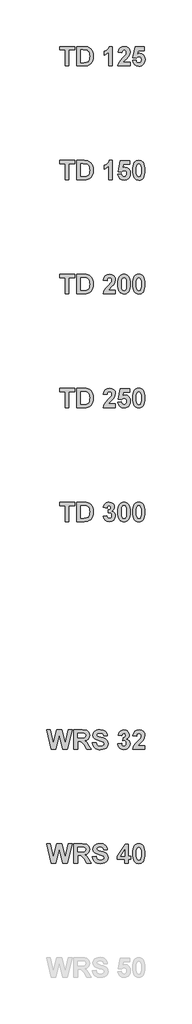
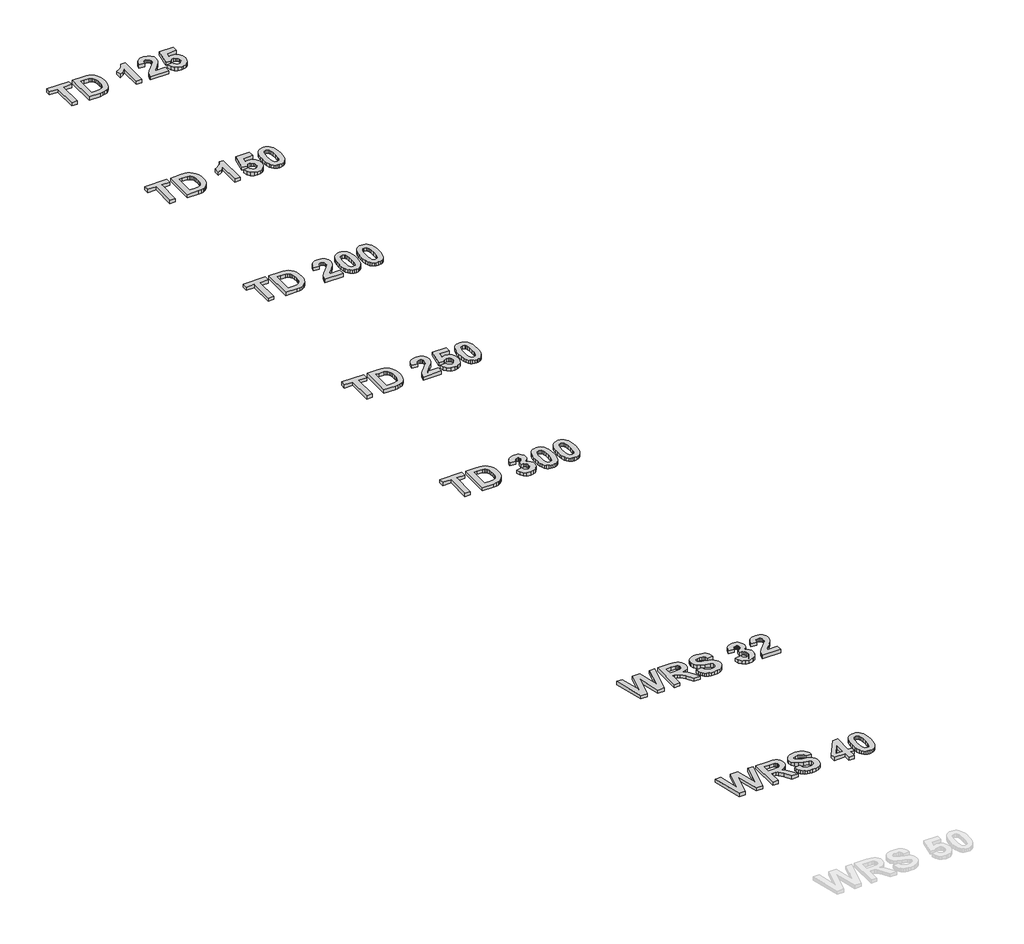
# One storey, part 6 of 9: 7 proxies.
"""IFC4 building model written with IfcOpenShell, lengths in millimetres."""

from ifc_helpers import new_model, si_unit, origin, origin_with_axes, place, context, project, spatial, polyline, outline, extrude, element, save

model = new_model("IFC4")

# Units and contexts
model_context = context("Model", 3, world=origin())
ifc_project = project(units=[si_unit("LENGTHUNIT", "METRE", prefix="MILLI")], contexts=[model_context])

# Site, building, storey
site = spatial("IfcSite", under=ifc_project)
building = spatial("IfcBuilding", under=site)
storey = spatial("IfcBuildingStorey", under=building, Name="Этаж 01", Elevation=0.0)

# Proxies
placement = place(None, origin())
element("IfcBuildingElementProxy", 1, Name="Wellmix_Надпись1", ObjectType="Wellmix_Надпись1", at=placement, inside=storey, context=model_context, shape_type="SweptSolid", body=[
    extrude(outline(polyline([(23803.8219791, -25606.2429048), (23803.8219791, -25395.7131873), (23730.9463076, -25395.7131873), (23730.9463076, -25351.1780548), (23925.2814314, -25351.1780548), (23925.2814314, -25395.7131873), (23852.40576, -25395.7131873), (23852.40576, -25606.2429048), (23803.8219791, -25606.2429048)])), origin_with_axes(), (0.0, 0.0, 1.0), 30.0),
    extrude(outline(polyline([(23957.6706187, -25351.1780548), (24052.117995, -25351.1780548), (24080.2687535, -25352.3958123), (24100.8282962, -25356.0490849), (24121.7357696, -25365.2455265), (24139.4169764, -25379.5502237), (24153.5635233, -25398.3068527), (24163.8670172, -25420.8590896), (24170.1534927, -25448.1637438), (24172.2489846, -25481.1776249), (24170.2879205, -25510.4670658), (24164.4047283, -25535.4548177), (24152.7332341, -25560.63235), (24136.9498313, -25580.4960313), (24121.1664285, -25592.1042654), (24100.6385158, -25600.8657936), (24080.6641293, -25604.898627), (24054.9014408, -25606.2429048), (23957.6706187, -25606.2429048), (23957.6706187, -25351.1780548)]), holes=[polyline([(24006.2543997, -25395.7131873), (24006.2543997, -25561.7077722), (24047.6265257, -25561.7077722), (24081.1543953, -25559.3038872), (24103.5168518, -25548.8975956), (24111.5904261, -25539.1634429), (24118.035052, -25524.7005953), (24122.2576657, -25504.805284), (24123.6652037, -25478.7737399), (24122.2576657, -25453.1059416), (24118.035052, -25434.1753472), (24111.2899404, -25420.3213784), (24102.3149093, -25409.8834568), (24090.856918, -25402.5769116), (24076.662926, -25398.1170723), (24031.1788915, -25395.7131873), (24006.2543997, -25395.7131873)])]), origin_with_axes(), (0.0, 0.0, 1.0), 30.0),
    extrude(outline(polyline([(24423.2651862, -25606.2429048), (24374.6814052, -25606.2429048), (24374.6814052, -25423.9272059), (24346.6255369, -25447.8079056), (24313.951679, -25464.5402103), (24313.951679, -25415.9564294), (24333.4199845, -25406.870693), (24354.5014233, -25392.1389899), (24372.9575666, -25373.1214129), (24384.5499857, -25351.1780548), (24423.2651862, -25351.1780548), (24423.2651862, -25606.2429048)])), origin_with_axes(), (0.0, 0.0, 1.0), 30.0),
    extrude(outline(polyline([(24658.0867941, -25557.6591238), (24658.0867941, -25606.2429048), (24496.1408576, -25606.2429048), (24501.3123734, -25581.7375113), (24511.6395898, -25558.5763957), (24530.8232247, -25532.3946088), (24562.5639956, -25498.8272016), (24600.1405137, -25458.0876769), (24607.1623883, -25443.3796964), (24609.5030132, -25428.8614962), (24607.5340416, -25414.7149493), (24601.6271268, -25404.2849351), (24592.2567198, -25397.8561243), (24579.8972716, -25395.7131873), (24567.6248061, -25397.8244942), (24558.1357864, -25404.1584149), (24551.7465131, -25415.3791807), (24548.773287, -25432.151023), (24500.189506, -25427.7228138), (24508.7928839, -25392.5739033), (24516.4157297, -25379.3347439), (24526.2526802, -25368.9857818), (24550.8766863, -25355.6299865), (24580.9726939, -25351.1780548), (24613.1088406, -25356.1676976), (24637.5272514, -25371.1366262), (24652.9469084, -25393.5228053), (24658.0867941, -25420.7641994), (24652.4566424, -25452.9003461), (24634.6172853, -25484.8467125), (24604.4105726, -25516.7298188), (24576.6710049, -25544.3744962), (24567.561546, -25557.6591238), (24658.0867941, -25557.6591238)])), origin_with_axes(), (0.0, 0.0, 1.0), 30.0),
    extrude(outline(polyline([(24690.4759814, -25534.4426556), (24735.0111139, -25529.3185849), (24739.1546526, -25544.3903112), (24747.4100997, -25555.9511003), (24758.5122528, -25563.3050905), (24771.1959091, -25565.7564206), (24785.3899011, -25563.1548477), (24797.2274532, -25555.350129), (24805.2219523, -25542.3106344), (24807.8867854, -25524.0047339), (24805.4117327, -25506.8454232), (24797.9865748, -25494.5887728), (24786.5918436, -25487.2347825), (24772.2080712, -25484.7834524), (24753.3881821, -25489.8442629), (24736.6558774, -25505.0266945), (24694.5246298, -25498.7639414), (24722.8651687, -25355.2267032), (24844.3246211, -25355.2267032), (24844.3246211, -25403.8104841), (24762.1497103, -25403.8104841), (24752.34439, -25450.1801605), (24767.8273071, -25442.73128), (24783.658155, -25440.2483199), (24811.7772835, -25445.9970843), (24835.2784223, -25463.2433776), (24851.1725303, -25489.66239), (24856.4705663, -25522.9293117), (24852.0581722, -25551.8550068), (24838.8209896, -25577.5228051), (24825.6035759, -25591.8591324), (24810.0534449, -25602.0993662), (24792.1705965, -25608.2435064), (24771.9550307, -25610.2915532), (24740.9496588, -25605.1516675), (24716.254485, -25589.7320105), (24699.0398217, -25565.6299004), (24690.4759814, -25534.4426556)])), origin_with_axes(), (0.0, 0.0, 1.0), 30.0),
])
element("IfcBuildingElementProxy", 2, Name="Wellmix_Надпись1", ObjectType="Wellmix_Надпись1", at=placement, inside=storey, context=model_context, shape_type="SweptSolid", body=[
    extrude(outline(polyline([(23621.0634593, -34606.2393741), (23556.8544259, -34351.1745242), (23606.7034095, -34351.1745242), (23647.9490152, -34526.4050883), (23692.2943673, -34351.1745242), (23757.6420831, -34351.1745242), (23801.7976549, -34529.3150543), (23843.0432606, -34351.1745242), (23892.8922441, -34351.1745242), (23829.6321127, -34606.2393741), (23772.1286532, -34606.2393741), (23724.873335, -34415.573338), (23676.6691149, -34606.2393741), (23621.0634593, -34606.2393741)])), origin_with_axes(), (0.0, 0.0, 1.0), 30.0),
    extrude(outline(polyline([(23917.1841346, -34606.2393741), (23917.1841346, -34351.1745242), (24024.4733175, -34351.1745242), (24059.4245402, -34352.8983627), (24083.3052398, -34358.0698785), (24099.8161341, -34367.6537884), (24112.6579408, -34382.6148095), (24120.9133879, -34401.5454038), (24123.6652037, -34423.0380335), (24119.6877229, -34449.3700632), (24107.7552806, -34470.6729125), (24087.8995068, -34485.9818643), (24060.1520317, -34494.3322016), (24085.6458647, -34515.5876058), (24112.7212009, -34556.7699514), (24143.9084457, -34606.2393741), (24087.1641078, -34606.2393741), (24050.220191, -34547.9767931), (24021.2154208, -34513.4051312), (24004.6412663, -34503.6314409), (23976.9016987, -34500.9745154), (23965.7679156, -34500.9745154), (23965.7679156, -34606.2393741), (23917.1841346, -34606.2393741)]), holes=[polyline([(23965.7679156, -34456.4393829), (24005.8115788, -34456.4393829), (24054.4269898, -34453.4977868), (24069.6094213, -34443.3761657), (24075.0814227, -34425.4419185), (24073.278509, -34414.5216383), (24067.8697677, -34405.9261679), (24059.1714996, -34399.8611028), (24047.5000054, -34396.5320384), (24008.0256834, -34395.7096567), (23965.7679156, -34395.7096567), (23965.7679156, -34456.4393829)])]), origin_with_axes(), (0.0, 0.0, 1.0), 30.0),
    extrude(outline(polyline([(24160.1030394, -34521.2177575), (24208.6868203, -34517.1691091), (24215.771955, -34538.8989642), (24227.6648597, -34553.9865056), (24244.4446096, -34562.8112939), (24266.1902798, -34565.75289), (24288.7583317, -34563.1513171), (24304.9687404, -34555.3465984), (24314.7424307, -34544.0625725), (24318.0003275, -34531.0230779), (24312.5915862, -34515.8090162), (24293.6451768, -34504.8966436), (24251.5139293, -34494.0791611), (24215.5505446, -34482.8979329), (24192.175926, -34469.2179294), (24174.1942336, -34445.922386), (24168.2003362, -34418.0404831), (24170.9521519, -34399.2522241), (24179.2075991, -34381.7291676), (24192.650377, -34366.8472217), (24210.964185, -34355.9822941), (24233.8485376, -34349.3399803), (24261.002949, -34347.1258757), (24302.9681387, -34352.6453222), (24319.5086862, -34359.5446303), (24333.0878688, -34369.2036616), (24343.7491778, -34381.1637802), (24351.5361046, -34394.9663501), (24356.4486492, -34410.6113714), (24358.4868116, -34428.098844), (24309.9030306, -34428.098844), (24304.533827, -34411.4060768), (24295.2583102, -34400.169496), (24281.2224685, -34393.7881302), (24261.5722902, -34391.6610083), (24240.8862272, -34393.922558), (24225.2609748, -34400.7072071), (24218.9033315, -34407.5076712), (24216.7841171, -34416.2691994), (24218.7135511, -34424.5404616), (24224.5018532, -34431.5148911), (24241.3053256, -34439.6833556), (24272.1051021, -34448.1206756), (24304.9766479, -34456.8980188), (24327.9954282, -34466.0865529), (24344.1267617, -34477.2124285), (24356.3359671, -34491.8017964), (24364.0220731, -34510.0365292), (24366.5841084, -34532.0985001), (24363.5555296, -34553.1641239), (24354.4697932, -34572.8380247), (24339.8408878, -34589.3805491), (24320.182802, -34601.0520434), (24295.2820327, -34607.9790278), (24264.9250772, -34610.2880226), (24242.2225975, -34608.8666465), (24222.3193786, -34604.6025182), (24205.2154206, -34597.4956379), (24190.9107234, -34587.5460053), (24179.306443, -34574.8722333), (24170.3037356, -34559.5929347), (24163.902601, -34541.7081094), (24160.1030394, -34521.2177575)])), origin_with_axes(), (0.0, 0.0, 1.0), 30.0),
    extrude(outline(polyline([(24496.1408576, -34534.945206), (24544.7246386, -34529.3150543), (24548.4728013, -34544.9403068), (24555.6686413, -34556.3903906), (24565.5214068, -34563.4122652), (24577.2403461, -34565.75289), (24589.8132972, -34563.0722419), (24600.2037738, -34555.0302977), (24607.1782033, -34542.4494391), (24609.5030132, -34526.1520477), (24607.3758912, -34510.7323907), (24600.9945255, -34498.8869311), (24591.5450433, -34491.3431604), (24580.2135723, -34488.8285702), (24560.9192322, -34492.4343977), (24565.157661, -34452.3907345), (24578.9879072, -34450.6510809), (24589.1016208, -34444.4199579), (24595.2932061, -34434.5513774), (24597.3570679, -34421.8993511), (24595.8151022, -34411.1530363), (24591.1892051, -34402.8264215), (24584.0012727, -34397.4888479), (24574.773201, -34395.7096567), (24565.386979, -34397.7735185), (24557.471555, -34403.9651038), (24551.7069756, -34414.1262625), (24548.773287, -34428.098844), (24500.189506, -34420.8239289), (24505.7484901, -34399.0861662), (24513.5690238, -34382.2036186), (24524.2916161, -34369.2906443), (24538.5567757, -34359.4616014), (24555.5500285, -34353.2462935), (24574.4569003, -34351.1745242), (24605.106434, -34356.9153811), (24617.8928881, -34364.0914522), (24628.9871336, -34374.1379519), (24641.7024201, -34394.1597835), (24645.9408489, -34416.6487602), (24643.6674379, -34432.5942671), (24636.847205, -34446.8396579), (24625.4801501, -34459.3849328), (24609.5662733, -34470.2300915), (24629.4299546, -34477.7817697), (24644.8654266, -34491.0743048), (24654.7814522, -34508.9373845), (24658.0867941, -34530.2006961), (24652.2273244, -34560.9688426), (24634.6489154, -34586.8501439), (24622.2123689, -34597.1042158), (24608.3406082, -34604.4285529), (24576.2914441, -34610.2880226), (24546.0293788, -34605.0769692), (24521.4132801, -34589.4438092), (24504.1986168, -34565.3970518), (24496.1408576, -34534.945206)])), origin_with_axes(), (0.0, 0.0, 1.0), 30.0),
    extrude(outline(polyline([(24852.4219179, -34557.6555932), (24852.4219179, -34606.2393741), (24690.4759814, -34606.2393741), (24695.6474972, -34581.7339807), (24705.9747136, -34558.5728651), (24725.1583485, -34532.3910782), (24756.8991194, -34498.823671), (24794.4756375, -34458.0841463), (24801.4975121, -34443.3761657), (24803.838137, -34428.8579656), (24801.8691654, -34414.7114187), (24795.9622506, -34404.2814045), (24786.5918436, -34397.8525936), (24774.2323954, -34395.7096567), (24761.9599299, -34397.8209636), (24752.4709102, -34404.1548842), (24746.0816369, -34415.3756501), (24743.1084108, -34432.1474924), (24694.5246298, -34427.7192832), (24703.1280077, -34392.5703727), (24710.7508535, -34379.3312133), (24720.587804, -34368.9822512), (24745.2118101, -34355.6264559), (24775.3078177, -34351.1745242), (24807.4439644, -34356.164167), (24831.8623752, -34371.1330956), (24847.2820322, -34393.5192746), (24852.4219179, -34420.7606687), (24846.7917662, -34452.8968155), (24828.9524091, -34484.8431819), (24798.7456964, -34516.7262881), (24771.0061287, -34544.3709656), (24761.8966698, -34557.6555932), (24852.4219179, -34557.6555932)])), origin_with_axes(), (0.0, 0.0, 1.0), 30.0),
])
element("IfcBuildingElementProxy", 3, Name="Wellmix_Надпись1", ObjectType="Wellmix_Надпись1", at=placement, inside=storey, context=model_context, shape_type="SweptSolid", body=[
    extrude(outline(polyline([(23803.8219791, -27106.2429048), (23803.8219791, -26895.7131873), (23730.9463076, -26895.7131873), (23730.9463076, -26851.1780548), (23925.2814314, -26851.1780548), (23925.2814314, -26895.7131873), (23852.40576, -26895.7131873), (23852.40576, -27106.2429048), (23803.8219791, -27106.2429048)])), origin_with_axes(), (0.0, 0.0, 1.0), 30.0),
    extrude(outline(polyline([(23957.6706187, -26851.1780548), (24052.117995, -26851.1780548), (24080.2687535, -26852.3958123), (24100.8282962, -26856.0490849), (24121.7357696, -26865.2455265), (24139.4169764, -26879.5502237), (24153.5635233, -26898.3068527), (24163.8670172, -26920.8590896), (24170.1534927, -26948.1637438), (24172.2489846, -26981.1776249), (24170.2879205, -27010.4670658), (24164.4047283, -27035.4548177), (24152.7332341, -27060.63235), (24136.9498313, -27080.4960313), (24121.1664285, -27092.1042654), (24100.6385158, -27100.8657936), (24080.6641293, -27104.898627), (24054.9014408, -27106.2429048), (23957.6706187, -27106.2429048), (23957.6706187, -26851.1780548)]), holes=[polyline([(24006.2543997, -26895.7131873), (24006.2543997, -27061.7077722), (24047.6265257, -27061.7077722), (24081.1543953, -27059.3038872), (24103.5168518, -27048.8975956), (24111.5904261, -27039.1634429), (24118.035052, -27024.7005953), (24122.2576657, -27004.805284), (24123.6652037, -26978.7737399), (24122.2576657, -26953.1059416), (24118.035052, -26934.1753472), (24111.2899404, -26920.3213784), (24102.3149093, -26909.8834568), (24090.856918, -26902.5769116), (24076.662926, -26898.1170723), (24031.1788915, -26895.7131873), (24006.2543997, -26895.7131873)])]), origin_with_axes(), (0.0, 0.0, 1.0), 30.0),
    extrude(outline(polyline([(24423.2651862, -27106.2429048), (24374.6814052, -27106.2429048), (24374.6814052, -26923.9272059), (24346.6255369, -26947.8079056), (24313.951679, -26964.5402103), (24313.951679, -26915.9564294), (24333.4199845, -26906.870693), (24354.5014233, -26892.1389899), (24372.9575666, -26873.1214129), (24384.5499857, -26851.1780548), (24423.2651862, -26851.1780548), (24423.2651862, -27106.2429048)])), origin_with_axes(), (0.0, 0.0, 1.0), 30.0),
    extrude(outline(polyline([(24496.1408576, -27034.4426556), (24540.6759901, -27029.3185849), (24544.8195288, -27044.3903112), (24553.0749759, -27055.9511003), (24564.177129, -27063.3050905), (24576.8607853, -27065.7564206), (24591.0547773, -27063.1548477), (24602.8923294, -27055.350129), (24610.8868285, -27042.3106344), (24613.5516616, -27024.0047339), (24611.0766089, -27006.8454232), (24603.651451, -26994.5887728), (24592.2567198, -26987.2347825), (24577.8729474, -26984.7834524), (24559.0530583, -26989.8442629), (24542.3207536, -27005.0266945), (24500.189506, -26998.7639414), (24528.5300449, -26855.2267032), (24649.9894973, -26855.2267032), (24649.9894973, -26903.8104841), (24567.8145865, -26903.8104841), (24558.0092662, -26950.1801605), (24573.4921833, -26942.73128), (24589.3230312, -26940.2483199), (24617.4421597, -26945.9970843), (24640.9432985, -26963.2433776), (24656.8374065, -26989.66239), (24662.1354425, -27022.9293117), (24657.7230483, -27051.8550068), (24644.4858658, -27077.5228051), (24631.2684521, -27091.8591324), (24615.7183211, -27102.0993662), (24597.8354727, -27108.2435064), (24577.6199069, -27110.2915532), (24546.614535, -27105.1516675), (24521.9193612, -27089.7320105), (24504.7046979, -27065.6299004), (24496.1408576, -27034.4426556)])), origin_with_axes(), (0.0, 0.0, 1.0), 30.0),
    extrude(outline(polyline([(24771.4489497, -26851.1780548), (24788.580584, -26852.8228182), (24803.7274317, -26857.7571084), (24816.8894928, -26865.9809255), (24828.0667673, -26877.4942695), (24838.7221457, -26895.6222509), (24846.3331303, -26918.8822105), (24850.899721, -26947.2741482), (24852.4219179, -26980.7980641), (24850.8918135, -27014.29035), (24846.3015002, -27042.7139178), (24838.650978, -27066.0687675), (24827.940247, -27084.3548993), (24816.8183252, -27095.7021854), (24803.6958017, -27103.8073897), (24788.5726765, -27108.6705123), (24771.4489497, -27110.2915532), (24754.1413731, -27108.512362), (24738.5932189, -27103.1747884), (24724.8044871, -27094.2788324), (24712.7751777, -27081.824494), (24703.0192793, -27064.8035649), (24696.0507805, -27042.2078367), (24691.8696812, -27014.0373094), (24690.4759814, -26980.2919831), (24692.0060858, -26946.9657551), (24696.5963991, -26918.6608), (24704.2469213, -26895.3771179), (24714.9576523, -26877.1147087), (24726.0795741, -26865.7674226), (24739.2020977, -26857.6622182), (24754.3252228, -26852.7990956), (24771.4489497, -26851.1780548)]), holes=[polyline([(24771.4489497, -26895.7131873), (24755.254356, -26901.0586684), (24748.9283429, -26908.5312714), (24744.2470931, -26920.2581183), (24740.3565951, -26944.4076735), (24739.0597624, -26980.7980641), (24740.2142598, -27016.7060962), (24743.677752, -27039.2820556), (24748.9046203, -27052.5350532), (24755.3492462, -27060.4741997), (24771.4489497, -27065.7564206), (24787.6435433, -27060.4109395), (24793.9695565, -27052.9383365), (24798.6508062, -27041.2114896), (24802.5413043, -27017.1884547), (24803.838137, -26980.7980641), (24802.6836396, -26944.9295696), (24799.2201474, -26922.3457027), (24793.993279, -26909.0531675), (24787.5486531, -26901.0586684), (24771.4489497, -26895.7131873)])]), origin_with_axes(), (0.0, 0.0, 1.0), 30.0),
])
element("IfcBuildingElementProxy", 4, Name="Wellmix_Надпись1", ObjectType="Wellmix_Надпись1", at=placement, inside=storey, context=model_context, shape_type="SweptSolid", body=[
    extrude(outline(polyline([(23803.8219791, -28606.2429048), (23803.8219791, -28395.7131873), (23730.9463076, -28395.7131873), (23730.9463076, -28351.1780548), (23925.2814314, -28351.1780548), (23925.2814314, -28395.7131873), (23852.40576, -28395.7131873), (23852.40576, -28606.2429048), (23803.8219791, -28606.2429048)])), origin_with_axes(), (0.0, 0.0, 1.0), 30.0),
    extrude(outline(polyline([(23957.6706187, -28351.1780548), (24052.117995, -28351.1780548), (24080.2687535, -28352.3958123), (24100.8282962, -28356.0490849), (24121.7357696, -28365.2455265), (24139.4169764, -28379.5502237), (24153.5635233, -28398.3068527), (24163.8670172, -28420.8590896), (24170.1534927, -28448.1637438), (24172.2489846, -28481.1776249), (24170.2879205, -28510.4670658), (24164.4047283, -28535.4548177), (24152.7332341, -28560.63235), (24136.9498313, -28580.4960313), (24121.1664285, -28592.1042654), (24100.6385158, -28600.8657936), (24080.6641293, -28604.898627), (24054.9014408, -28606.2429048), (23957.6706187, -28606.2429048), (23957.6706187, -28351.1780548)]), holes=[polyline([(24006.2543997, -28395.7131873), (24006.2543997, -28561.7077722), (24047.6265257, -28561.7077722), (24081.1543953, -28559.3038872), (24103.5168518, -28548.8975956), (24111.5904261, -28539.1634429), (24118.035052, -28524.7005953), (24122.2576657, -28504.805284), (24123.6652037, -28478.7737399), (24122.2576657, -28453.1059416), (24118.035052, -28434.1753472), (24111.2899404, -28420.3213784), (24102.3149093, -28409.8834568), (24090.856918, -28402.5769116), (24076.662926, -28398.1170723), (24031.1788915, -28395.7131873), (24006.2543997, -28395.7131873)])]), origin_with_axes(), (0.0, 0.0, 1.0), 30.0),
    extrude(outline(polyline([(24463.7516703, -28557.6591238), (24463.7516703, -28606.2429048), (24301.8057338, -28606.2429048), (24306.9772495, -28581.7375113), (24317.304466, -28558.5763957), (24336.4881009, -28532.3946088), (24368.2288718, -28498.8272016), (24405.8053899, -28458.0876769), (24412.8272645, -28443.3796964), (24415.1678894, -28428.8614962), (24413.1989178, -28414.7149493), (24407.292003, -28404.2849351), (24397.921596, -28397.8561243), (24385.5621478, -28395.7131873), (24373.2896823, -28397.8244942), (24363.8006626, -28404.1584149), (24357.4113893, -28415.3791807), (24354.4381632, -28432.151023), (24305.8543822, -28427.7228138), (24314.4577601, -28392.5739033), (24322.0806059, -28379.3347439), (24331.9175564, -28368.9857818), (24356.5415625, -28355.6299865), (24386.6375701, -28351.1780548), (24418.7737168, -28356.1676976), (24443.1921276, -28371.1366262), (24458.6117846, -28393.5228053), (24463.7516703, -28420.7641994), (24458.1215186, -28452.9003461), (24440.2821615, -28484.8467125), (24410.0754488, -28516.7298188), (24382.3358811, -28544.3744962), (24373.2264222, -28557.6591238), (24463.7516703, -28557.6591238)])), origin_with_axes(), (0.0, 0.0, 1.0), 30.0),
    extrude(outline(polyline([(24577.1138259, -28351.1780548), (24594.2454602, -28352.8228182), (24609.3923079, -28357.7571084), (24622.554369, -28365.9809255), (24633.7316435, -28377.4942695), (24644.3870219, -28395.6222509), (24651.9980065, -28418.8822105), (24656.5645972, -28447.2741482), (24658.0867941, -28480.7980641), (24656.5566897, -28514.29035), (24651.9663764, -28542.7139178), (24644.3158542, -28566.0687675), (24633.6051232, -28584.3548993), (24622.4832014, -28595.7021854), (24609.3606779, -28603.8073897), (24594.2375527, -28608.6705123), (24577.1138259, -28610.2915532), (24559.8062493, -28608.512362), (24544.2580951, -28603.1747884), (24530.4693633, -28594.2788324), (24518.4400539, -28581.824494), (24508.6841555, -28564.8035649), (24501.7156567, -28542.2078367), (24497.5345574, -28514.0373094), (24496.1408576, -28480.2919831), (24497.670962, -28446.9657551), (24502.2612753, -28418.6608), (24509.9117975, -28395.3771179), (24520.6225285, -28377.1147087), (24531.7444503, -28365.7674226), (24544.8669739, -28357.6622182), (24559.990099, -28352.7990956), (24577.1138259, -28351.1780548)]), holes=[polyline([(24577.1138259, -28395.7131873), (24560.9192322, -28401.0586684), (24554.5932191, -28408.5312714), (24549.9119693, -28420.2581183), (24546.0214712, -28444.4076735), (24544.7246386, -28480.7980641), (24545.879136, -28516.7060962), (24549.3426282, -28539.2820556), (24554.5694965, -28552.5350532), (24561.0141224, -28560.4741997), (24577.1138259, -28565.7564206), (24593.3084195, -28560.4109395), (24599.6344326, -28552.9383365), (24604.3156824, -28541.2114896), (24608.2061805, -28517.1884547), (24609.5030132, -28480.7980641), (24608.3485158, -28444.9295696), (24604.8850236, -28422.3457027), (24599.6581552, -28409.0531675), (24593.2135293, -28401.0586684), (24577.1138259, -28395.7131873)])]), origin_with_axes(), (0.0, 0.0, 1.0), 30.0),
    extrude(outline(polyline([(24771.4489497, -28351.1780548), (24788.580584, -28352.8228182), (24803.7274317, -28357.7571084), (24816.8894928, -28365.9809255), (24828.0667673, -28377.4942695), (24838.7221457, -28395.6222509), (24846.3331303, -28418.8822105), (24850.899721, -28447.2741482), (24852.4219179, -28480.7980641), (24850.8918135, -28514.29035), (24846.3015002, -28542.7139178), (24838.650978, -28566.0687675), (24827.940247, -28584.3548993), (24816.8183252, -28595.7021854), (24803.6958017, -28603.8073897), (24788.5726765, -28608.6705123), (24771.4489497, -28610.2915532), (24754.1413731, -28608.512362), (24738.5932189, -28603.1747884), (24724.8044871, -28594.2788324), (24712.7751777, -28581.824494), (24703.0192793, -28564.8035649), (24696.0507805, -28542.2078367), (24691.8696812, -28514.0373094), (24690.4759814, -28480.2919831), (24692.0060858, -28446.9657551), (24696.5963991, -28418.6608), (24704.2469213, -28395.3771179), (24714.9576523, -28377.1147087), (24726.0795741, -28365.7674226), (24739.2020977, -28357.6622182), (24754.3252228, -28352.7990956), (24771.4489497, -28351.1780548)]), holes=[polyline([(24771.4489497, -28395.7131873), (24755.254356, -28401.0586684), (24748.9283429, -28408.5312714), (24744.2470931, -28420.2581183), (24740.3565951, -28444.4076735), (24739.0597624, -28480.7980641), (24740.2142598, -28516.7060962), (24743.677752, -28539.2820556), (24748.9046203, -28552.5350532), (24755.3492462, -28560.4741997), (24771.4489497, -28565.7564206), (24787.6435433, -28560.4109395), (24793.9695565, -28552.9383365), (24798.6508062, -28541.2114896), (24802.5413043, -28517.1884547), (24803.838137, -28480.7980641), (24802.6836396, -28444.9295696), (24799.2201474, -28422.3457027), (24793.993279, -28409.0531675), (24787.5486531, -28401.0586684), (24771.4489497, -28395.7131873)])]), origin_with_axes(), (0.0, 0.0, 1.0), 30.0),
])
element("IfcBuildingElementProxy", 5, Name="Wellmix_Надпись1", ObjectType="Wellmix_Надпись1", at=placement, inside=storey, context=model_context, shape_type="SweptSolid", body=[
    extrude(outline(polyline([(23803.8219791, -30106.2429048), (23803.8219791, -29895.7131873), (23730.9463076, -29895.7131873), (23730.9463076, -29851.1780548), (23925.2814314, -29851.1780548), (23925.2814314, -29895.7131873), (23852.40576, -29895.7131873), (23852.40576, -30106.2429048), (23803.8219791, -30106.2429048)])), origin_with_axes(), (0.0, 0.0, 1.0), 30.0),
    extrude(outline(polyline([(23957.6706187, -29851.1780548), (24052.117995, -29851.1780548), (24080.2687535, -29852.3958123), (24100.8282962, -29856.0490849), (24121.7357696, -29865.2455265), (24139.4169764, -29879.5502237), (24153.5635233, -29898.3068527), (24163.8670172, -29920.8590896), (24170.1534927, -29948.1637438), (24172.2489846, -29981.1776249), (24170.2879205, -30010.4670658), (24164.4047283, -30035.4548177), (24152.7332341, -30060.63235), (24136.9498313, -30080.4960313), (24121.1664285, -30092.1042654), (24100.6385158, -30100.8657936), (24080.6641293, -30104.898627), (24054.9014408, -30106.2429048), (23957.6706187, -30106.2429048), (23957.6706187, -29851.1780548)]), holes=[polyline([(24006.2543997, -29895.7131873), (24006.2543997, -30061.7077722), (24047.6265257, -30061.7077722), (24081.1543953, -30059.3038872), (24103.5168518, -30048.8975956), (24111.5904261, -30039.1634429), (24118.035052, -30024.7005953), (24122.2576657, -30004.805284), (24123.6652037, -29978.7737399), (24122.2576657, -29953.1059416), (24118.035052, -29934.1753472), (24111.2899404, -29920.3213784), (24102.3149093, -29909.8834568), (24090.856918, -29902.5769116), (24076.662926, -29898.1170723), (24031.1788915, -29895.7131873), (24006.2543997, -29895.7131873)])]), origin_with_axes(), (0.0, 0.0, 1.0), 30.0),
    extrude(outline(polyline([(24463.7516703, -30057.6591238), (24463.7516703, -30106.2429048), (24301.8057338, -30106.2429048), (24306.9772495, -30081.7375113), (24317.304466, -30058.5763957), (24336.4881009, -30032.3946088), (24368.2288718, -29998.8272016), (24405.8053899, -29958.0876769), (24412.8272645, -29943.3796964), (24415.1678894, -29928.8614962), (24413.1989178, -29914.7149493), (24407.292003, -29904.2849351), (24397.921596, -29897.8561243), (24385.5621478, -29895.7131873), (24373.2896823, -29897.8244942), (24363.8006626, -29904.1584149), (24357.4113893, -29915.3791807), (24354.4381632, -29932.151023), (24305.8543822, -29927.7228138), (24314.4577601, -29892.5739033), (24322.0806059, -29879.3347439), (24331.9175564, -29868.9857818), (24356.5415625, -29855.6299865), (24386.6375701, -29851.1780548), (24418.7737168, -29856.1676976), (24443.1921276, -29871.1366262), (24458.6117846, -29893.5228053), (24463.7516703, -29920.7641994), (24458.1215186, -29952.9003461), (24440.2821615, -29984.8467125), (24410.0754488, -30016.7298188), (24382.3358811, -30044.3744962), (24373.2264222, -30057.6591238), (24463.7516703, -30057.6591238)])), origin_with_axes(), (0.0, 0.0, 1.0), 30.0),
    extrude(outline(polyline([(24496.1408576, -30034.4426556), (24540.6759901, -30029.3185849), (24544.8195288, -30044.3903112), (24553.0749759, -30055.9511003), (24564.177129, -30063.3050905), (24576.8607853, -30065.7564206), (24591.0547773, -30063.1548477), (24602.8923294, -30055.350129), (24610.8868285, -30042.3106344), (24613.5516616, -30024.0047339), (24611.0766089, -30006.8454232), (24603.651451, -29994.5887728), (24592.2567198, -29987.2347825), (24577.8729474, -29984.7834524), (24559.0530583, -29989.8442629), (24542.3207536, -30005.0266945), (24500.189506, -29998.7639414), (24528.5300449, -29855.2267032), (24649.9894973, -29855.2267032), (24649.9894973, -29903.8104841), (24567.8145865, -29903.8104841), (24558.0092662, -29950.1801605), (24573.4921833, -29942.73128), (24589.3230312, -29940.2483199), (24617.4421597, -29945.9970843), (24640.9432985, -29963.2433776), (24656.8374065, -29989.66239), (24662.1354425, -30022.9293117), (24657.7230483, -30051.8550068), (24644.4858658, -30077.5228051), (24631.2684521, -30091.8591324), (24615.7183211, -30102.0993662), (24597.8354727, -30108.2435064), (24577.6199069, -30110.2915532), (24546.614535, -30105.1516675), (24521.9193612, -30089.7320105), (24504.7046979, -30065.6299004), (24496.1408576, -30034.4426556)])), origin_with_axes(), (0.0, 0.0, 1.0), 30.0),
    extrude(outline(polyline([(24771.4489497, -29851.1780548), (24788.580584, -29852.8228182), (24803.7274317, -29857.7571084), (24816.8894928, -29865.9809255), (24828.0667673, -29877.4942695), (24838.7221457, -29895.6222509), (24846.3331303, -29918.8822105), (24850.899721, -29947.2741482), (24852.4219179, -29980.7980641), (24850.8918135, -30014.29035), (24846.3015002, -30042.7139178), (24838.650978, -30066.0687675), (24827.940247, -30084.3548993), (24816.8183252, -30095.7021854), (24803.6958017, -30103.8073897), (24788.5726765, -30108.6705123), (24771.4489497, -30110.2915532), (24754.1413731, -30108.512362), (24738.5932189, -30103.1747884), (24724.8044871, -30094.2788324), (24712.7751777, -30081.824494), (24703.0192793, -30064.8035649), (24696.0507805, -30042.2078367), (24691.8696812, -30014.0373094), (24690.4759814, -29980.2919831), (24692.0060858, -29946.9657551), (24696.5963991, -29918.6608), (24704.2469213, -29895.3771179), (24714.9576523, -29877.1147087), (24726.0795741, -29865.7674226), (24739.2020977, -29857.6622182), (24754.3252228, -29852.7990956), (24771.4489497, -29851.1780548)]), holes=[polyline([(24771.4489497, -29895.7131873), (24755.254356, -29901.0586684), (24748.9283429, -29908.5312714), (24744.2470931, -29920.2581183), (24740.3565951, -29944.4076735), (24739.0597624, -29980.7980641), (24740.2142598, -30016.7060962), (24743.677752, -30039.2820556), (24748.9046203, -30052.5350532), (24755.3492462, -30060.4741997), (24771.4489497, -30065.7564206), (24787.6435433, -30060.4109395), (24793.9695565, -30052.9383365), (24798.6508062, -30041.2114896), (24802.5413043, -30017.1884547), (24803.838137, -29980.7980641), (24802.6836396, -29944.9295696), (24799.2201474, -29922.3457027), (24793.993279, -29909.0531675), (24787.5486531, -29901.0586684), (24771.4489497, -29895.7131873)])]), origin_with_axes(), (0.0, 0.0, 1.0), 30.0),
])
element("IfcBuildingElementProxy", 6, Name="Wellmix_Надпись1", ObjectType="Wellmix_Надпись1", at=placement, inside=storey, context=model_context, shape_type="SweptSolid", body=[
    extrude(outline(polyline([(23803.8219791, -31606.2429048), (23803.8219791, -31395.7131873), (23730.9463076, -31395.7131873), (23730.9463076, -31351.1780548), (23925.2814314, -31351.1780548), (23925.2814314, -31395.7131873), (23852.40576, -31395.7131873), (23852.40576, -31606.2429048), (23803.8219791, -31606.2429048)])), origin_with_axes(), (0.0, 0.0, 1.0), 30.0),
    extrude(outline(polyline([(23957.6706187, -31351.1780548), (24052.117995, -31351.1780548), (24080.2687535, -31352.3958123), (24100.8282962, -31356.0490849), (24121.7357696, -31365.2455265), (24139.4169764, -31379.5502237), (24153.5635233, -31398.3068527), (24163.8670172, -31420.8590896), (24170.1534927, -31448.1637438), (24172.2489846, -31481.1776249), (24170.2879205, -31510.4670658), (24164.4047283, -31535.4548177), (24152.7332341, -31560.63235), (24136.9498313, -31580.4960313), (24121.1664285, -31592.1042654), (24100.6385158, -31600.8657936), (24080.6641293, -31604.898627), (24054.9014408, -31606.2429048), (23957.6706187, -31606.2429048), (23957.6706187, -31351.1780548)]), holes=[polyline([(24006.2543997, -31395.7131873), (24006.2543997, -31561.7077722), (24047.6265257, -31561.7077722), (24081.1543953, -31559.3038872), (24103.5168518, -31548.8975956), (24111.5904261, -31539.1634429), (24118.035052, -31524.7005953), (24122.2576657, -31504.805284), (24123.6652037, -31478.7737399), (24122.2576657, -31453.1059416), (24118.035052, -31434.1753472), (24111.2899404, -31420.3213784), (24102.3149093, -31409.8834568), (24090.856918, -31402.5769116), (24076.662926, -31398.1170723), (24031.1788915, -31395.7131873), (24006.2543997, -31395.7131873)])]), origin_with_axes(), (0.0, 0.0, 1.0), 30.0),
    extrude(outline(polyline([(24301.8057338, -31534.9487366), (24350.3895148, -31529.3185849), (24354.1376775, -31544.9438374), (24361.3335175, -31556.3939212), (24371.186283, -31563.4157958), (24382.9052223, -31565.7564206), (24395.4781734, -31563.0757726), (24405.86865, -31555.0338284), (24412.8430795, -31542.4529697), (24415.1678894, -31526.1555784), (24413.0407674, -31510.7359213), (24406.6594017, -31498.8904617), (24397.2099195, -31491.346691), (24385.8784485, -31488.8321008), (24366.5841084, -31492.4379283), (24370.8225372, -31452.3942651), (24384.6527834, -31450.6546115), (24394.766497, -31444.4234885), (24400.9580823, -31434.554908), (24403.0219441, -31421.9028817), (24401.4799784, -31411.1565669), (24396.8540813, -31402.8299521), (24389.6661489, -31397.4923785), (24380.4380772, -31395.7131873), (24371.0518552, -31397.7770491), (24363.1364312, -31403.9686345), (24357.3718518, -31414.1297931), (24354.4381632, -31428.1023746), (24305.8543822, -31420.8274595), (24311.4133663, -31399.0896968), (24319.2339, -31382.2071493), (24329.9564923, -31369.2941749), (24344.2216519, -31359.465132), (24361.2149047, -31353.2498241), (24380.1217765, -31351.1780548), (24410.7713102, -31356.9189117), (24423.5577643, -31364.0949829), (24434.6520098, -31374.1414825), (24447.3672963, -31394.1633141), (24451.6057251, -31416.6522908), (24449.3323141, -31432.5977977), (24442.5120812, -31446.8431886), (24431.1450263, -31459.3884634), (24415.2311495, -31470.2336222), (24435.0948308, -31477.7853003), (24450.5303028, -31491.0778355), (24460.4463284, -31508.9409151), (24463.7516703, -31530.2042268), (24457.8922006, -31560.9723732), (24440.3137916, -31586.8536745), (24427.8772451, -31597.1077464), (24414.0054844, -31604.4320835), (24381.9563203, -31610.2915532), (24351.694255, -31605.0804999), (24327.0781563, -31589.4473399), (24309.863493, -31565.4005824), (24301.8057338, -31534.9487366)])), origin_with_axes(), (0.0, 0.0, 1.0), 30.0),
    extrude(outline(polyline([(24577.1138259, -31351.1780548), (24594.2454602, -31352.8228182), (24609.3923079, -31357.7571084), (24622.554369, -31365.9809255), (24633.7316435, -31377.4942695), (24644.3870219, -31395.6222509), (24651.9980065, -31418.8822105), (24656.5645972, -31447.2741482), (24658.0867941, -31480.7980641), (24656.5566897, -31514.29035), (24651.9663764, -31542.7139178), (24644.3158542, -31566.0687675), (24633.6051232, -31584.3548993), (24622.4832014, -31595.7021854), (24609.3606779, -31603.8073897), (24594.2375527, -31608.6705123), (24577.1138259, -31610.2915532), (24559.8062493, -31608.512362), (24544.2580951, -31603.1747884), (24530.4693633, -31594.2788324), (24518.4400539, -31581.824494), (24508.6841555, -31564.8035649), (24501.7156567, -31542.2078367), (24497.5345574, -31514.0373094), (24496.1408576, -31480.2919831), (24497.670962, -31446.9657551), (24502.2612753, -31418.6608), (24509.9117975, -31395.3771179), (24520.6225285, -31377.1147087), (24531.7444503, -31365.7674226), (24544.8669739, -31357.6622182), (24559.990099, -31352.7990956), (24577.1138259, -31351.1780548)]), holes=[polyline([(24577.1138259, -31395.7131873), (24560.9192322, -31401.0586684), (24554.5932191, -31408.5312714), (24549.9119693, -31420.2581183), (24546.0214712, -31444.4076735), (24544.7246386, -31480.7980641), (24545.879136, -31516.7060962), (24549.3426282, -31539.2820556), (24554.5694965, -31552.5350532), (24561.0141224, -31560.4741997), (24577.1138259, -31565.7564206), (24593.3084195, -31560.4109395), (24599.6344326, -31552.9383365), (24604.3156824, -31541.2114896), (24608.2061805, -31517.1884547), (24609.5030132, -31480.7980641), (24608.3485158, -31444.9295696), (24604.8850236, -31422.3457027), (24599.6581552, -31409.0531675), (24593.2135293, -31401.0586684), (24577.1138259, -31395.7131873)])]), origin_with_axes(), (0.0, 0.0, 1.0), 30.0),
    extrude(outline(polyline([(24771.4489497, -31351.1780548), (24788.580584, -31352.8228182), (24803.7274317, -31357.7571084), (24816.8894928, -31365.9809255), (24828.0667673, -31377.4942695), (24838.7221457, -31395.6222509), (24846.3331303, -31418.8822105), (24850.899721, -31447.2741482), (24852.4219179, -31480.7980641), (24850.8918135, -31514.29035), (24846.3015002, -31542.7139178), (24838.650978, -31566.0687675), (24827.940247, -31584.3548993), (24816.8183252, -31595.7021854), (24803.6958017, -31603.8073897), (24788.5726765, -31608.6705123), (24771.4489497, -31610.2915532), (24754.1413731, -31608.512362), (24738.5932189, -31603.1747884), (24724.8044871, -31594.2788324), (24712.7751777, -31581.824494), (24703.0192793, -31564.8035649), (24696.0507805, -31542.2078367), (24691.8696812, -31514.0373094), (24690.4759814, -31480.2919831), (24692.0060858, -31446.9657551), (24696.5963991, -31418.6608), (24704.2469213, -31395.3771179), (24714.9576523, -31377.1147087), (24726.0795741, -31365.7674226), (24739.2020977, -31357.6622182), (24754.3252228, -31352.7990956), (24771.4489497, -31351.1780548)]), holes=[polyline([(24771.4489497, -31395.7131873), (24755.254356, -31401.0586684), (24748.9283429, -31408.5312714), (24744.2470931, -31420.2581183), (24740.3565951, -31444.4076735), (24739.0597624, -31480.7980641), (24740.2142598, -31516.7060962), (24743.677752, -31539.2820556), (24748.9046203, -31552.5350532), (24755.3492462, -31560.4741997), (24771.4489497, -31565.7564206), (24787.6435433, -31560.4109395), (24793.9695565, -31552.9383365), (24798.6508062, -31541.2114896), (24802.5413043, -31517.1884547), (24803.838137, -31480.7980641), (24802.6836396, -31444.9295696), (24799.2201474, -31422.3457027), (24793.993279, -31409.0531675), (24787.5486531, -31401.0586684), (24771.4489497, -31395.7131873)])]), origin_with_axes(), (0.0, 0.0, 1.0), 30.0),
])
element("IfcBuildingElementProxy", 7, Name="Wellmix_Надпись1", ObjectType="Wellmix_Надпись1", at=placement, inside=storey, context=model_context, shape_type="SweptSolid", body=[
    extrude(outline(polyline([(23621.0634593, -36106.2393741), (23556.8544259, -35851.1745242), (23606.7034095, -35851.1745242), (23647.9490152, -36026.4050883), (23692.2943673, -35851.1745242), (23757.6420831, -35851.1745242), (23801.7976549, -36029.3150543), (23843.0432606, -35851.1745242), (23892.8922441, -35851.1745242), (23829.6321127, -36106.2393741), (23772.1286532, -36106.2393741), (23724.873335, -35915.573338), (23676.6691149, -36106.2393741), (23621.0634593, -36106.2393741)])), origin_with_axes(), (0.0, 0.0, 1.0), 30.0),
    extrude(outline(polyline([(23917.1841346, -36106.2393741), (23917.1841346, -35851.1745242), (24024.4733175, -35851.1745242), (24059.4245402, -35852.8983627), (24083.3052398, -35858.0698785), (24099.8161341, -35867.6537884), (24112.6579408, -35882.6148095), (24120.9133879, -35901.5454038), (24123.6652037, -35923.0380335), (24119.6877229, -35949.3700632), (24107.7552806, -35970.6729125), (24087.8995068, -35985.9818643), (24060.1520317, -35994.3322016), (24085.6458647, -36015.5876058), (24112.7212009, -36056.7699514), (24143.9084457, -36106.2393741), (24087.1641078, -36106.2393741), (24050.220191, -36047.9767931), (24021.2154208, -36013.4051312), (24004.6412663, -36003.6314409), (23976.9016987, -36000.9745154), (23965.7679156, -36000.9745154), (23965.7679156, -36106.2393741), (23917.1841346, -36106.2393741)]), holes=[polyline([(23965.7679156, -35956.4393829), (24005.8115788, -35956.4393829), (24054.4269898, -35953.4977868), (24069.6094213, -35943.3761657), (24075.0814227, -35925.4419185), (24073.278509, -35914.5216383), (24067.8697677, -35905.9261679), (24059.1714996, -35899.8611028), (24047.5000054, -35896.5320384), (24008.0256834, -35895.7096567), (23965.7679156, -35895.7096567), (23965.7679156, -35956.4393829)])]), origin_with_axes(), (0.0, 0.0, 1.0), 30.0),
    extrude(outline(polyline([(24160.1030394, -36021.2177575), (24208.6868203, -36017.1691091), (24215.771955, -36038.8989642), (24227.6648597, -36053.9865056), (24244.4446096, -36062.8112939), (24266.1902798, -36065.75289), (24288.7583317, -36063.1513171), (24304.9687404, -36055.3465984), (24314.7424307, -36044.0625725), (24318.0003275, -36031.0230779), (24312.5915862, -36015.8090162), (24293.6451768, -36004.8966436), (24251.5139293, -35994.0791611), (24215.5505446, -35982.8979329), (24192.175926, -35969.2179294), (24174.1942336, -35945.922386), (24168.2003362, -35918.0404831), (24170.9521519, -35899.2522241), (24179.2075991, -35881.7291676), (24192.650377, -35866.8472217), (24210.964185, -35855.9822941), (24233.8485376, -35849.3399803), (24261.002949, -35847.1258757), (24302.9681387, -35852.6453222), (24319.5086862, -35859.5446303), (24333.0878688, -35869.2036616), (24343.7491778, -35881.1637802), (24351.5361046, -35894.9663501), (24356.4486492, -35910.6113714), (24358.4868116, -35928.098844), (24309.9030306, -35928.098844), (24304.533827, -35911.4060768), (24295.2583102, -35900.169496), (24281.2224685, -35893.7881302), (24261.5722902, -35891.6610083), (24240.8862272, -35893.922558), (24225.2609748, -35900.7072071), (24218.9033315, -35907.5076712), (24216.7841171, -35916.2691994), (24218.7135511, -35924.5404616), (24224.5018532, -35931.5148911), (24241.3053256, -35939.6833556), (24272.1051021, -35948.1206756), (24304.9766479, -35956.8980188), (24327.9954282, -35966.0865529), (24344.1267617, -35977.2124285), (24356.3359671, -35991.8017964), (24364.0220731, -36010.0365292), (24366.5841084, -36032.0985001), (24363.5555296, -36053.1641239), (24354.4697932, -36072.8380247), (24339.8408878, -36089.3805491), (24320.182802, -36101.0520434), (24295.2820327, -36107.9790278), (24264.9250772, -36110.2880226), (24242.2225975, -36108.8666465), (24222.3193786, -36104.6025182), (24205.2154206, -36097.4956379), (24190.9107234, -36087.5460053), (24179.306443, -36074.8722333), (24170.3037356, -36059.5929347), (24163.902601, -36041.7081094), (24160.1030394, -36021.2177575)])), origin_with_axes(), (0.0, 0.0, 1.0), 30.0),
    extrude(outline(polyline([(24585.2111227, -36106.2393741), (24585.2111227, -36053.6069448), (24488.0435608, -36053.6069448), (24488.0435608, -36013.3102411), (24591.6636561, -35855.2231726), (24633.7949036, -35855.2231726), (24633.7949036, -36013.1204607), (24666.1840909, -36013.1204607), (24666.1840909, -36053.6069448), (24633.7949036, -36053.6069448), (24633.7949036, -36106.2393741), (24585.2111227, -36106.2393741)]), holes=[polyline([(24585.2111227, -36013.1204607), (24585.2111227, -35930.2496885), (24530.9339299, -36013.1204607), (24585.2111227, -36013.1204607)])]), origin_with_axes(), (0.0, 0.0, 1.0), 30.0),
    extrude(outline(polyline([(24771.4489497, -35851.1745242), (24788.580584, -35852.8192876), (24803.7274317, -35857.7535778), (24816.8894928, -35865.9773949), (24828.0667673, -35877.4907388), (24838.7221457, -35895.6187203), (24846.3331303, -35918.8786798), (24850.899721, -35947.2706176), (24852.4219179, -35980.7945335), (24850.8918135, -36014.2868193), (24846.3015002, -36042.7103871), (24838.650978, -36066.0652369), (24827.940247, -36084.3513687), (24816.8183252, -36095.6986547), (24803.6958017, -36103.8038591), (24788.5726765, -36108.6669817), (24771.4489497, -36110.2880226), (24754.1413731, -36108.5088314), (24738.5932189, -36103.1712578), (24724.8044871, -36094.2753018), (24712.7751777, -36081.8209634), (24703.0192793, -36064.8000343), (24696.0507805, -36042.2043061), (24691.8696812, -36014.0337788), (24690.4759814, -35980.2884524), (24692.0060858, -35946.9622244), (24696.5963991, -35918.6572694), (24704.2469213, -35895.3735872), (24714.9576523, -35877.111178), (24726.0795741, -35865.763892), (24739.2020977, -35857.6586876), (24754.3252228, -35852.795565), (24771.4489497, -35851.1745242)]), holes=[polyline([(24771.4489497, -35895.7096567), (24755.254356, -35901.0551378), (24748.9283429, -35908.5277408), (24744.2470931, -35920.2545877), (24740.3565951, -35944.4041429), (24739.0597624, -35980.7945335), (24740.2142598, -36016.7025656), (24743.677752, -36039.278525), (24748.9046203, -36052.5315225), (24755.3492462, -36060.470669), (24771.4489497, -36065.75289), (24787.6435433, -36060.4074089), (24793.9695565, -36052.9348059), (24798.6508062, -36041.207959), (24802.5413043, -36017.1849241), (24803.838137, -35980.7945335), (24802.6836396, -35944.926039), (24799.2201474, -35922.342172), (24793.993279, -35909.0496369), (24787.5486531, -35901.0551378), (24771.4489497, -35895.7096567)])]), origin_with_axes(), (0.0, 0.0, 1.0), 30.0),
])

save(model, "model.ifc")
